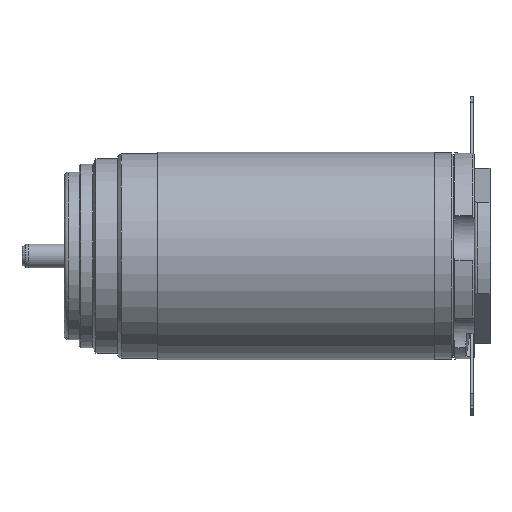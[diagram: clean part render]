
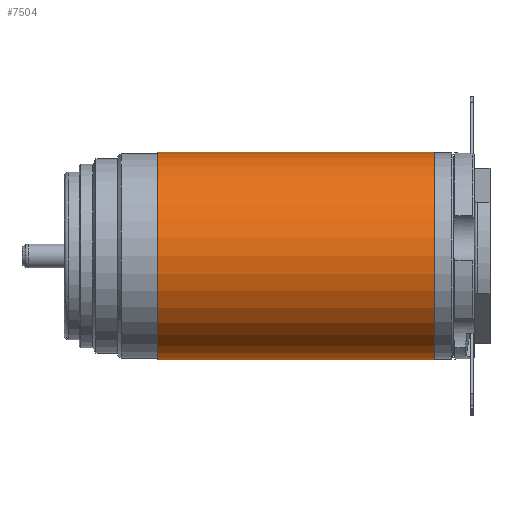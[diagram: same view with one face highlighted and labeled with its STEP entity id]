
A CAD part, top view. The second image highlights one B-rep face of the part: STEP entity #7504.
In plain terms, the highlighted cylindrical face has radius 6.5 mm (diameter 13 mm), a partial arc.
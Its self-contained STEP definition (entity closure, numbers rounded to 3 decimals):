
#2997=CARTESIAN_POINT('',(19.8,0.,0.));
#2998=DIRECTION('',(1.,0.,0.));
#2999=DIRECTION('',(0.,1.,0.));
#3000=AXIS2_PLACEMENT_3D('',#2997,#2998,#2999);
#3005=DIRECTION('',(-1.,0.,0.));
#3006=VECTOR('',#3005,17.3);
#3007=CARTESIAN_POINT('',(19.8,6.5,0.));
#3008=LINE('',#3007,#3006);
#3012=DIRECTION('',(-1.,0.,0.));
#3013=VECTOR('',#3012,17.3);
#3014=CARTESIAN_POINT('',(19.8,-6.5,0.));
#3015=LINE('',#3014,#3013);
#3035=CARTESIAN_POINT('',(2.5,0.,0.));
#3036=DIRECTION('',(1.,0.,0.));
#3037=DIRECTION('',(0.,1.,0.));
#3038=AXIS2_PLACEMENT_3D('',#3035,#3036,#3037);
#4503=CARTESIAN_POINT('',(19.8,6.5,0.));
#4504=CARTESIAN_POINT('',(2.5,6.5,0.));
#4505=VERTEX_POINT('',#4503);
#4506=VERTEX_POINT('',#4504);
#4507=CARTESIAN_POINT('',(19.8,-6.5,0.));
#4508=CARTESIAN_POINT('',(2.5,-6.5,0.));
#4509=VERTEX_POINT('',#4507);
#4510=VERTEX_POINT('',#4508);
#7490=CARTESIAN_POINT('',(-1.05,0.,0.));
#7491=DIRECTION('',(1.,0.,0.));
#7492=DIRECTION('',(0.,-1.,0.));
#7493=AXIS2_PLACEMENT_3D('',#7490,#7491,#7492);
#7494=CYLINDRICAL_SURFACE('',#7493,6.5);
#7496=ORIENTED_EDGE('',*,*,#7495,.F.);
#7497=ORIENTED_EDGE('',*,*,#7479,.T.);
#7499=ORIENTED_EDGE('',*,*,#7498,.T.);
#7501=ORIENTED_EDGE('',*,*,#7500,.F.);
#7502=EDGE_LOOP('',(#7496,#7497,#7499,#7501));
#7503=FACE_OUTER_BOUND('',#7502,.F.);
#7504=ADVANCED_FACE('',(#7503),#7494,.T.);
#3001=CIRCLE('',#3000,6.5);
#3039=CIRCLE('',#3038,6.5);
#7479=EDGE_CURVE('',#4505,#4509,#3001,.T.);
#7495=EDGE_CURVE('',#4505,#4506,#3008,.T.);
#7498=EDGE_CURVE('',#4509,#4510,#3015,.T.);
#7500=EDGE_CURVE('',#4506,#4510,#3039,.T.);
